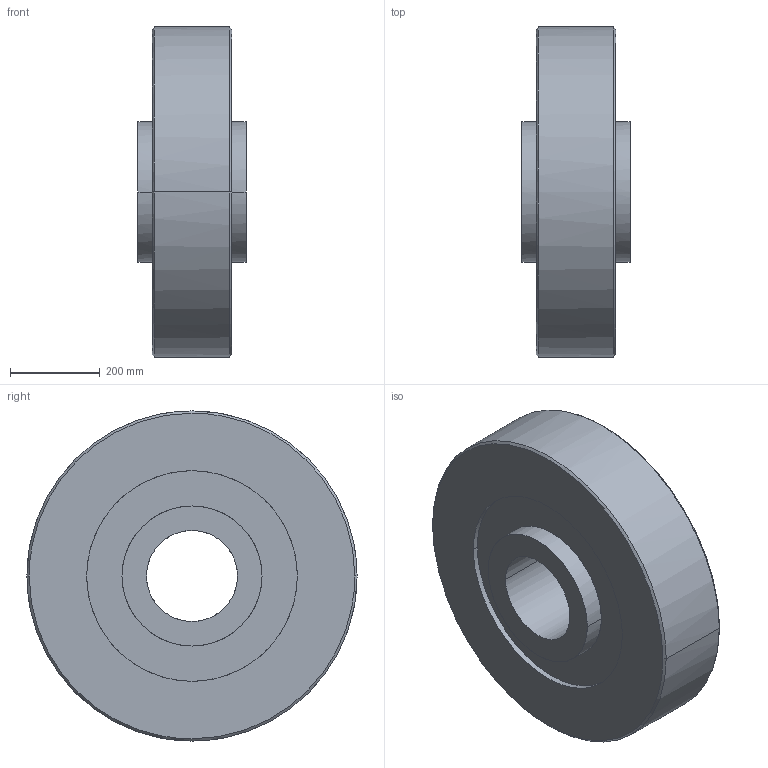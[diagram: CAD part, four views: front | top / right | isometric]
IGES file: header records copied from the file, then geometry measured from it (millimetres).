
Global section: native system: Kubotek KeyCreator; preprocessor: KCM Version 1.1.1442.0; author: KeyCreator User; organization: Self; date: 20170713.015652; units: inch
Bounding box: 241.3 x 736.6 x 736.6 mm (x, y, z)
Surface area: 1464292.2 mm2 (no closed solid volume)
Topology: 0 solids, 0 shells, 22 faces, 144 edges, 144 vertices
Faces by surface type: bspline 22
